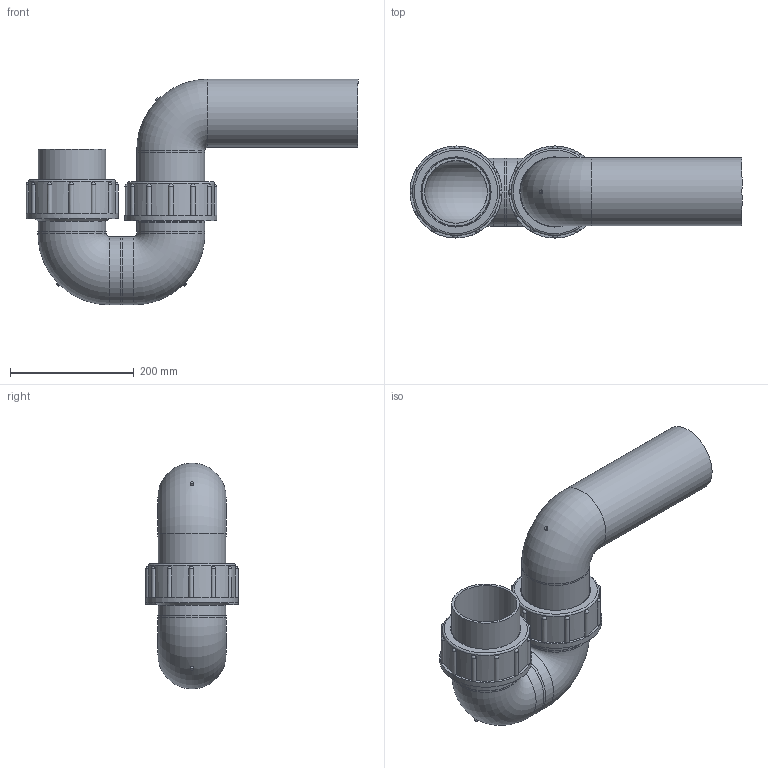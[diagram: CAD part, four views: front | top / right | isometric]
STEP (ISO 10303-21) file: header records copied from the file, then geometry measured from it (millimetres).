
FILE_DESCRIPTION(/* description */ (''),/* implementation_level */ '2;1');
FILE_NAME(/* name */ 'Z:\Geberit\Export\NewStep\Isiphone_Iassembly\stp\367730.stp',/* time_stamp */ '2014-04-02T15:39:32+02:00',/* author */ ('Marco'),/* organization */ (''),/* preprocessor_version */ 'ST-DEVELOPER v15.2',/* originating_system */ 'Autodesk Inventor 2014',/* authorisation */ '');
FILE_SCHEMA (('AUTOMOTIVE_DESIGN { 1 0 10303 214 3 1 1 }'));
Length unit declared in the file: millimetre
Products named in the file (11): 367784; 853797; 861725; 861726; 853797_1; 367772; 367780; 861724; 367730
Bounding box: 537.49 x 149 x 365.4 mm (x, y, z)
Volume: 2024991.9 mm3; surface area: 825404.1 mm2
Topology: 9 solids, 9 shells, 162 faces, 400 edges, 238 vertices
Faces by surface type: cylinder 64, plane 51, sphere 24, cone 15, torus 8
Full cylindrical faces by diameter (mm): 101.34 x6, 101.4 x4, 110 x6, 110.4 x6, 111.5 x4, 120 x2, 123.4 x4, 130 x4, 141 x2, 149 x2
Entity records: 2871 total; most frequent: CARTESIAN_POINT 734, DIRECTION 458, ORIENTED_EDGE 314, AXIS2_PLACEMENT_3D 217, EDGE_CURVE 157, EDGE_LOOP 136, VERTEX_POINT 121, CIRCLE 107
